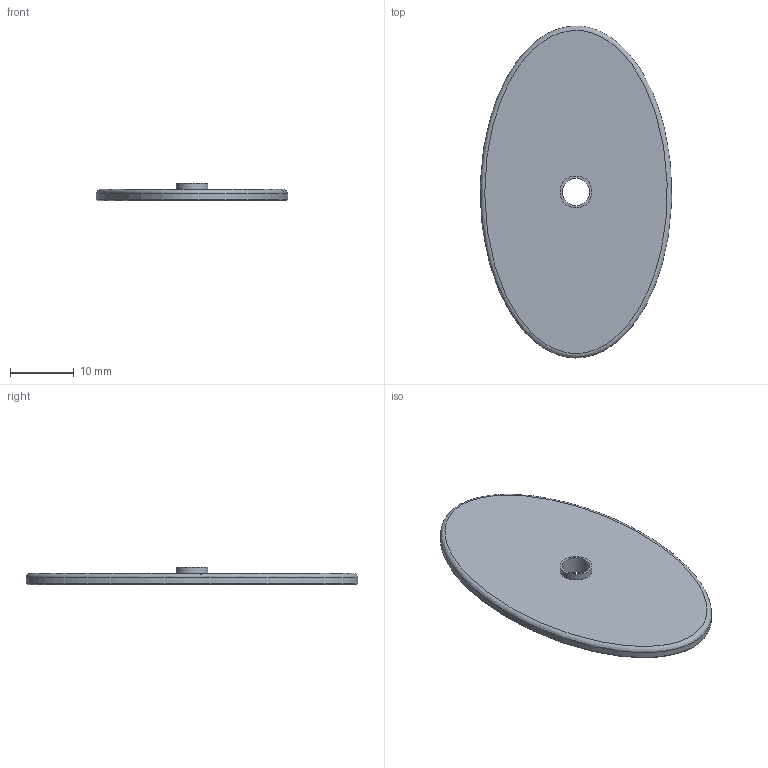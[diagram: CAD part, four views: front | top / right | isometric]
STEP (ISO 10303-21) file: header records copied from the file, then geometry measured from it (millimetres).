
FILE_DESCRIPTION(('Open CASCADE Model'),'2;1');
FILE_NAME('W-OVAL-WO52','2026-10-19T21:23:53',('Author'),('Open CASCADE' ),'Open CASCADE STEP processor 8.0','build123d','Unknown');
FILE_SCHEMA(('AUTOMOTIVE_DESIGN { 1 0 10303 214 1 1 1 1 }'));
Length unit declared in the file: millimetre
Products named in the file (2): W-OVAL-WO52; brass_WO52__w
Assembly tree (1 placements, depth 2):
  W-OVAL-WO52
    brass_WO52__w
Bounding box: 29.96 x 52 x 2.79 mm (x, y, z)
Volume: 2163.1 mm3; surface area: 2665.6 mm2
Topology: 1 solids, 1 shells, 12 faces, 19 edges, 12 vertices
Faces by surface type: plane 5, cylinder 4, bspline 2, extrusion 1
Full cylindrical faces by diameter (mm): 2 x2, 4.3 x1, 5 x1
Entity records: 1038 total; most frequent: CARTESIAN_POINT 602, DIRECTION 76, ORIENTED_EDGE 38, PCURVE 38, DEFINITIONAL_REPRESENTATION 38, VECTOR 28, LINE 27, AXIS2_PLACEMENT_3D 20
